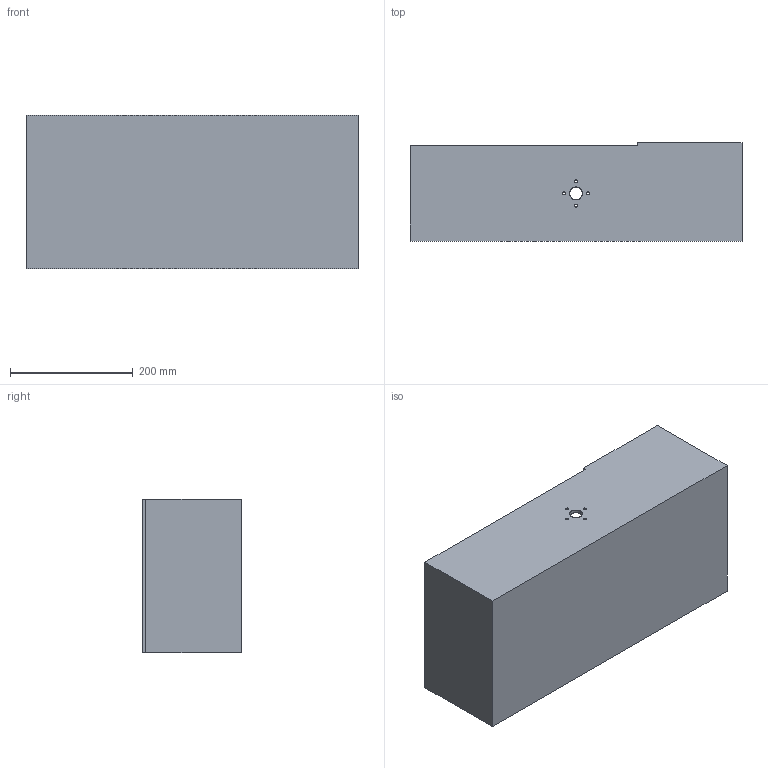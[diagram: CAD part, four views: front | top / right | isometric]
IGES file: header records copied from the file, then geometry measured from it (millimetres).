
Start section: SolidWorks IGES file using analytic representation for surfaces
Global section: file name: C:\Users\kaziw\OneDrive\Desktop\FEM PROJECT\CAD FILES\CHASSIS\Chassis V2.IGS; native system: SolidWorks 2023; preprocessor: SolidWorks 2023; author: kaziw; date: 241116.133041; units: millimetre
Bounding box: 540 x 160 x 250 mm (x, y, z)
Surface area: 828525.6 mm2 (no closed solid volume)
Topology: 0 solids, 0 shells, 36 faces, 860 edges, 860 vertices
Faces by surface type: revolution 22, bspline 14
